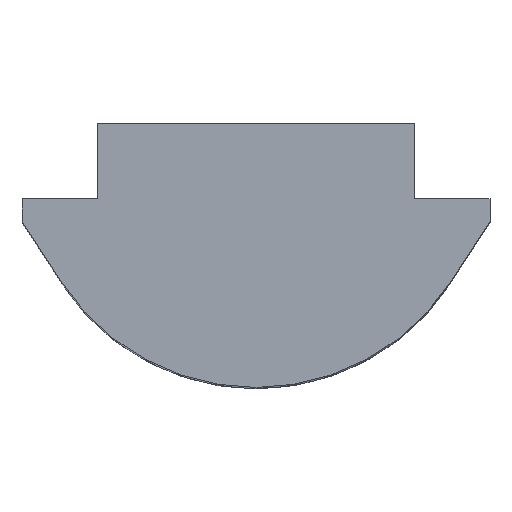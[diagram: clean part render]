
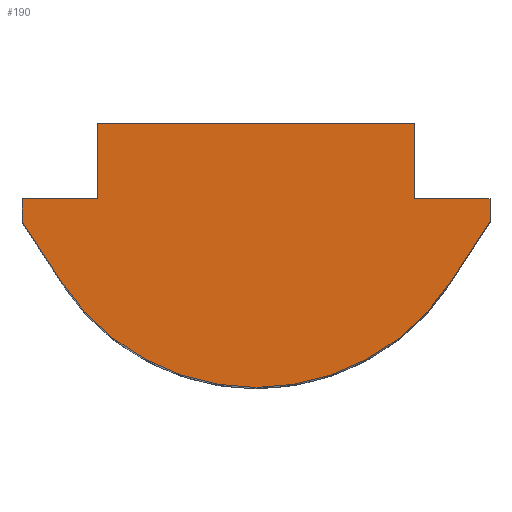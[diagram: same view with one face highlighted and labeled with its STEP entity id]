
A CAD part, top view. The second image highlights one B-rep face of the part: STEP entity #190.
In plain terms, the highlighted planar face has unit normal (0, 0, 1).
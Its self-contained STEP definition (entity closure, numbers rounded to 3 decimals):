
#11 = ORIENTED_EDGE ( 'NONE', *, *, #490, .T. ) ;
#27 = DIRECTION ( 'NONE',  ( 0., 1., 0. ) ) ;
#41 = LINE ( 'NONE', #415, #261 ) ;
#43 = AXIS2_PLACEMENT_3D ( 'NONE', #310, #268, #445 ) ;
#47 = ORIENTED_EDGE ( 'NONE', *, *, #193, .T. ) ;
#55 = ORIENTED_EDGE ( 'NONE', *, *, #584, .T. ) ;
#57 = EDGE_CURVE ( 'NONE', #240, #184, #156, .T. ) ;
#60 = DIRECTION ( 'NONE',  ( 0., 0., 1. ) ) ;
#68 = CARTESIAN_POINT ( 'NONE',  ( -2.1, 0., 5. ) ) ;
#73 = LINE ( 'NONE', #406, #441 ) ;
#89 = EDGE_LOOP ( 'NONE', ( #244, #147, #474, #572, #11, #55, #523, #409, #282, #47 ) ) ;
#90 = CARTESIAN_POINT ( 'NONE',  ( 2.1, -1., 5. ) ) ;
#98 = CARTESIAN_POINT ( 'NONE',  ( 2.582, -2.098, 5. ) ) ;
#113 = CARTESIAN_POINT ( 'NONE',  ( -3.1, -1.3, 5. ) ) ;
#141 = EDGE_CURVE ( 'NONE', #501, #559, #525, .T. ) ;
#143 = CARTESIAN_POINT ( 'NONE',  ( -2.1, -1., 5. ) ) ;
#147 = ORIENTED_EDGE ( 'NONE', *, *, #57, .T. ) ;
#153 = DIRECTION ( 'NONE',  ( 0., -1., 0. ) ) ;
#156 = LINE ( 'NONE', #98, #463 ) ;
#161 = VECTOR ( 'NONE', #27, 1000. ) ;
#184 = VERTEX_POINT ( 'NONE', #528 ) ;
#187 = CARTESIAN_POINT ( 'NONE',  ( 2.1, 0., 5. ) ) ;
#190 = ADVANCED_FACE ( 'NONE', ( #294 ), #443, .T. ) ;
#193 = EDGE_CURVE ( 'NONE', #323, #513, #251, .T. ) ;
#196 = CARTESIAN_POINT ( 'NONE',  ( -2.1, -1., 5. ) ) ;
#211 = CARTESIAN_POINT ( 'NONE',  ( 3.1, -1.3, 5. ) ) ;
#218 = DIRECTION ( 'NONE',  ( -1., 0., 0. ) ) ;
#226 = CARTESIAN_POINT ( 'NONE',  ( 2.1, -1., 5. ) ) ;
#231 = DIRECTION ( 'NONE',  ( -1., 0., 0. ) ) ;
#236 = EDGE_CURVE ( 'NONE', #559, #329, #500, .T. ) ;
#239 = EDGE_CURVE ( 'NONE', #513, #240, #446, .T. ) ;
#240 = VERTEX_POINT ( 'NONE', #504 ) ;
#244 = ORIENTED_EDGE ( 'NONE', *, *, #239, .T. ) ;
#249 = CARTESIAN_POINT ( 'NONE',  ( -2.582, -2.098, 5. ) ) ;
#251 = LINE ( 'NONE', #249, #586 ) ;
#252 = VECTOR ( 'NONE', #218, 1000. ) ;
#260 = CARTESIAN_POINT ( 'NONE',  ( 3.1, -1., 5. ) ) ;
#261 = VECTOR ( 'NONE', #231, 1000. ) ;
#264 = EDGE_CURVE ( 'NONE', #184, #287, #269, .T. ) ;
#265 = DIRECTION ( 'NONE',  ( 0., -1., 0. ) ) ;
#268 = DIRECTION ( 'NONE',  ( 0., 0., 1. ) ) ;
#269 = LINE ( 'NONE', #211, #161 ) ;
#282 = ORIENTED_EDGE ( 'NONE', *, *, #413, .T. ) ;
#285 = CARTESIAN_POINT ( 'NONE',  ( -2.1, 0., 5. ) ) ;
#287 = VERTEX_POINT ( 'NONE', #260 ) ;
#294 = FACE_OUTER_BOUND ( 'NONE', #89, .T. ) ;
#302 = DIRECTION ( 'NONE',  ( 0.545, 0.839, 0. ) ) ;
#310 = CARTESIAN_POINT ( 'NONE',  ( 0., -0.422, 5. ) ) ;
#313 = CARTESIAN_POINT ( 'NONE',  ( -3.1, -1., 5. ) ) ;
#323 = VERTEX_POINT ( 'NONE', #113 ) ;
#329 = VERTEX_POINT ( 'NONE', #313 ) ;
#373 = LINE ( 'NONE', #90, #475 ) ;
#381 = CARTESIAN_POINT ( 'NONE',  ( -2.582, -2.098, 5. ) ) ;
#404 = DIRECTION ( 'NONE',  ( -1., 0., 0. ) ) ;
#406 = CARTESIAN_POINT ( 'NONE',  ( -3.1, -1.3, 5. ) ) ;
#409 = ORIENTED_EDGE ( 'NONE', *, *, #236, .T. ) ;
#413 = EDGE_CURVE ( 'NONE', #329, #323, #73, .T. ) ;
#414 = EDGE_CURVE ( 'NONE', #287, #428, #41, .T. ) ;
#415 = CARTESIAN_POINT ( 'NONE',  ( 3.1, -1., 5. ) ) ;
#418 = AXIS2_PLACEMENT_3D ( 'NONE', #481, #60, #579 ) ;
#428 = VERTEX_POINT ( 'NONE', #226 ) ;
#437 = DIRECTION ( 'NONE',  ( 0.545, -0.839, 0. ) ) ;
#441 = VECTOR ( 'NONE', #265, 1000. ) ;
#443 = PLANE ( 'NONE',  #418 ) ;
#445 = DIRECTION ( 'NONE',  ( 1., 0., 0. ) ) ;
#446 = CIRCLE ( 'NONE', #43, 3.078 ) ;
#449 = LINE ( 'NONE', #68, #252 ) ;
#461 = VERTEX_POINT ( 'NONE', #187 ) ;
#463 = VECTOR ( 'NONE', #302, 1000. ) ;
#474 = ORIENTED_EDGE ( 'NONE', *, *, #264, .T. ) ;
#475 = VECTOR ( 'NONE', #552, 1000. ) ;
#481 = CARTESIAN_POINT ( 'NONE',  ( 0., -0.422, 5. ) ) ;
#490 = EDGE_CURVE ( 'NONE', #428, #461, #373, .T. ) ;
#500 = LINE ( 'NONE', #537, #553 ) ;
#501 = VERTEX_POINT ( 'NONE', #285 ) ;
#504 = CARTESIAN_POINT ( 'NONE',  ( 2.582, -2.098, 5. ) ) ;
#513 = VERTEX_POINT ( 'NONE', #381 ) ;
#523 = ORIENTED_EDGE ( 'NONE', *, *, #141, .T. ) ;
#525 = LINE ( 'NONE', #196, #576 ) ;
#528 = CARTESIAN_POINT ( 'NONE',  ( 3.1, -1.3, 5. ) ) ;
#537 = CARTESIAN_POINT ( 'NONE',  ( -3.1, -1., 5. ) ) ;
#552 = DIRECTION ( 'NONE',  ( 0., 1., 0. ) ) ;
#553 = VECTOR ( 'NONE', #404, 1000. ) ;
#559 = VERTEX_POINT ( 'NONE', #143 ) ;
#572 = ORIENTED_EDGE ( 'NONE', *, *, #414, .T. ) ;
#576 = VECTOR ( 'NONE', #153, 1000. ) ;
#579 = DIRECTION ( 'NONE',  ( 1., 0., 0. ) ) ;
#584 = EDGE_CURVE ( 'NONE', #461, #501, #449, .T. ) ;
#586 = VECTOR ( 'NONE', #437, 1000. ) ;
